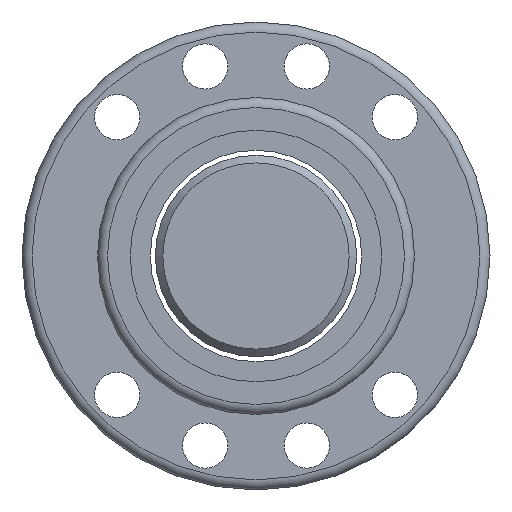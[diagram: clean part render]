
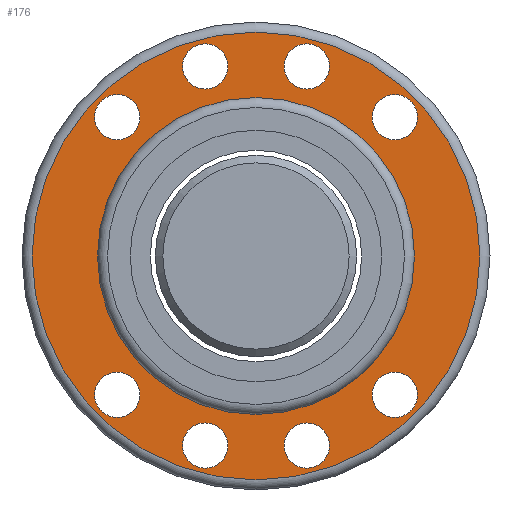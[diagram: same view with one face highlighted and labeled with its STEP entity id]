
A CAD part, left-side view. The second image highlights one B-rep face of the part: STEP entity #176.
In plain terms, the highlighted planar face has unit normal (-1, 0, 0).
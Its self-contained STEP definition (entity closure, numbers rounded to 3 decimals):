
#127=PLANE('',#742);
#144=FACE_OUTER_BOUND('',#367,.T.);
#176=ADVANCED_FACE('',(#257,#258,#259,#260,#261,#262,#263,#264,#144,#265),
#127,.F.);
#257=FACE_BOUND('',#359,.T.);
#258=FACE_BOUND('',#360,.T.);
#259=FACE_BOUND('',#361,.T.);
#260=FACE_BOUND('',#362,.T.);
#261=FACE_BOUND('',#363,.T.);
#262=FACE_BOUND('',#364,.T.);
#263=FACE_BOUND('',#365,.T.);
#264=FACE_BOUND('',#366,.T.);
#265=FACE_BOUND('',#368,.T.);
#359=EDGE_LOOP('',(#465));
#360=EDGE_LOOP('',(#466));
#361=EDGE_LOOP('',(#467));
#362=EDGE_LOOP('',(#468));
#363=EDGE_LOOP('',(#469));
#364=EDGE_LOOP('',(#470));
#365=EDGE_LOOP('',(#471));
#366=EDGE_LOOP('',(#472));
#367=EDGE_LOOP('',(#473));
#368=EDGE_LOOP('',(#474));
#465=ORIENTED_EDGE('',*,*,#598,.T.);
#466=ORIENTED_EDGE('',*,*,#599,.T.);
#467=ORIENTED_EDGE('',*,*,#600,.T.);
#468=ORIENTED_EDGE('',*,*,#601,.T.);
#469=ORIENTED_EDGE('',*,*,#602,.T.);
#470=ORIENTED_EDGE('',*,*,#603,.T.);
#471=ORIENTED_EDGE('',*,*,#604,.T.);
#472=ORIENTED_EDGE('',*,*,#605,.T.);
#473=ORIENTED_EDGE('',*,*,#596,.F.);
#474=ORIENTED_EDGE('',*,*,#606,.T.);
#543=VERTEX_POINT('',#1057);
#545=VERTEX_POINT('',#1062);
#546=VERTEX_POINT('',#1064);
#547=VERTEX_POINT('',#1066);
#548=VERTEX_POINT('',#1068);
#549=VERTEX_POINT('',#1070);
#550=VERTEX_POINT('',#1072);
#551=VERTEX_POINT('',#1074);
#552=VERTEX_POINT('',#1076);
#553=VERTEX_POINT('',#1078);
#596=EDGE_CURVE('',#543,#543,#649,.T.);
#598=EDGE_CURVE('',#545,#545,#651,.T.);
#599=EDGE_CURVE('',#546,#546,#652,.T.);
#600=EDGE_CURVE('',#547,#547,#653,.T.);
#601=EDGE_CURVE('',#548,#548,#654,.T.);
#602=EDGE_CURVE('',#549,#549,#655,.T.);
#603=EDGE_CURVE('',#550,#550,#656,.T.);
#604=EDGE_CURVE('',#551,#551,#657,.T.);
#605=EDGE_CURVE('',#552,#552,#658,.T.);
#606=EDGE_CURVE('',#553,#553,#659,.T.);
#649=CIRCLE('',#730,44.5);
#651=CIRCLE('',#733,4.5);
#652=CIRCLE('',#734,4.5);
#653=CIRCLE('',#735,4.5);
#654=CIRCLE('',#736,4.5);
#655=CIRCLE('',#737,4.5);
#656=CIRCLE('',#738,4.5);
#657=CIRCLE('',#739,4.5);
#658=CIRCLE('',#740,4.5);
#659=CIRCLE('',#741,31.5);
#730=AXIS2_PLACEMENT_3D('',#1056,#884,#885);
#733=AXIS2_PLACEMENT_3D('',#1061,#890,#891);
#734=AXIS2_PLACEMENT_3D('',#1063,#892,#893);
#735=AXIS2_PLACEMENT_3D('',#1065,#894,#895);
#736=AXIS2_PLACEMENT_3D('',#1067,#896,#897);
#737=AXIS2_PLACEMENT_3D('',#1069,#898,#899);
#738=AXIS2_PLACEMENT_3D('',#1071,#900,#901);
#739=AXIS2_PLACEMENT_3D('',#1073,#902,#903);
#740=AXIS2_PLACEMENT_3D('',#1075,#904,#905);
#741=AXIS2_PLACEMENT_3D('',#1077,#906,#907);
#742=AXIS2_PLACEMENT_3D('',#1079,#908,#909);
#884=DIRECTION('',(1.,0.,0.));
#885=DIRECTION('',(0.,1.,0.));
#890=DIRECTION('',(1.,0.,0.));
#891=DIRECTION('',(0.,1.,0.));
#892=DIRECTION('',(1.,0.,0.));
#893=DIRECTION('',(0.,1.,0.));
#894=DIRECTION('',(1.,0.,0.));
#895=DIRECTION('',(0.,1.,0.));
#896=DIRECTION('',(1.,0.,0.));
#897=DIRECTION('',(0.,1.,0.));
#898=DIRECTION('',(1.,0.,0.));
#899=DIRECTION('',(0.,1.,0.));
#900=DIRECTION('',(1.,0.,0.));
#901=DIRECTION('',(0.,1.,0.));
#902=DIRECTION('',(1.,0.,0.));
#903=DIRECTION('',(0.,1.,0.));
#904=DIRECTION('',(1.,0.,0.));
#905=DIRECTION('',(0.,1.,0.));
#906=DIRECTION('',(1.,0.,0.));
#907=DIRECTION('',(0.,1.,0.));
#908=DIRECTION('',(1.,0.,0.));
#909=DIRECTION('',(0.,1.,0.));
#1056=CARTESIAN_POINT('',(-34.,0.,0.));
#1057=CARTESIAN_POINT('',(-34.,44.5,0.));
#1061=CARTESIAN_POINT('',(-34.,-10.097,37.668));
#1062=CARTESIAN_POINT('',(-34.,-5.597,37.668));
#1063=CARTESIAN_POINT('',(-34.,-27.578,27.573));
#1064=CARTESIAN_POINT('',(-34.,-23.078,27.573));
#1065=CARTESIAN_POINT('',(-34.,-27.573,-27.578));
#1066=CARTESIAN_POINT('',(-34.,-23.073,-27.578));
#1067=CARTESIAN_POINT('',(-34.,-10.09,-37.67));
#1068=CARTESIAN_POINT('',(-34.,-5.59,-37.67));
#1069=CARTESIAN_POINT('',(-34.,10.097,-37.668));
#1070=CARTESIAN_POINT('',(-34.,14.597,-37.668));
#1071=CARTESIAN_POINT('',(-34.,27.578,-27.573));
#1072=CARTESIAN_POINT('',(-34.,32.078,-27.573));
#1073=CARTESIAN_POINT('',(-34.,27.573,27.578));
#1074=CARTESIAN_POINT('',(-34.,32.073,27.578));
#1075=CARTESIAN_POINT('',(-34.,10.09,37.67));
#1076=CARTESIAN_POINT('',(-34.,14.59,37.67));
#1077=CARTESIAN_POINT('',(-34.,0.,0.));
#1078=CARTESIAN_POINT('',(-34.,31.5,0.));
#1079=CARTESIAN_POINT('',(-34.,38.,0.));
